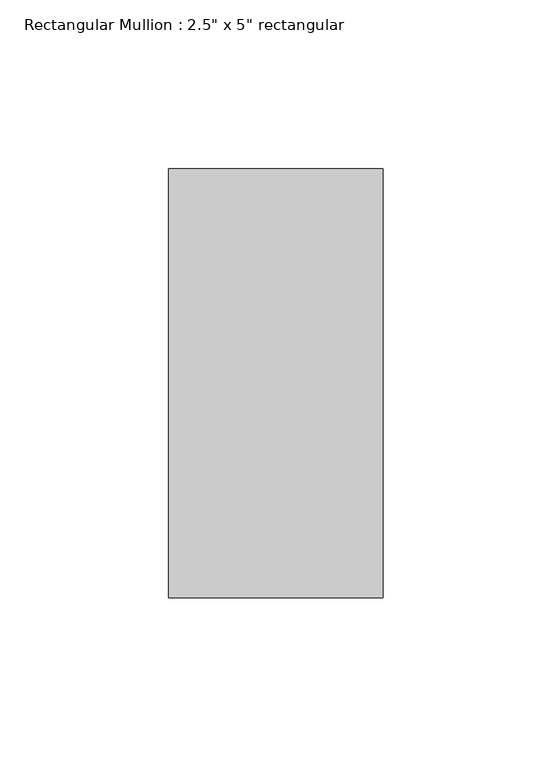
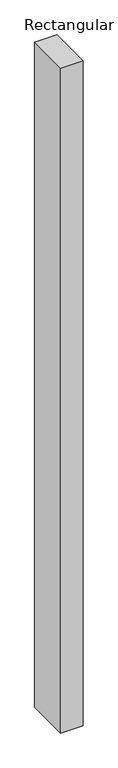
"""IFC4 building model written with IfcOpenShell, lengths in millimetres: member geometry."""

from ifc_helpers import new_model, si_unit, frame, origin, place, context, project, spatial, polyline, outline, extrude, source, transform, mapped, element, save


def member_c6bdffdc(model_context):
    return source(origin(), model_context, "Body", "SweptSolid", [
        extrude(outline(polyline([(31.75, 63.5), (31.75, -63.5), (-31.75, -63.5), (-31.75, 63.5), (31.75, 63.5)])), frame((0.0, 0.0, -1986.7465198), z_axis=(0.0, 0.0, 1.0), x_axis=(1.0, 0.0, 0.0)), (0.0, 0.0, 1.0), 1986.7465198),
    ])


if __name__ == "__main__":
    model = new_model("IFC4")
    model_context = context("Model", 3, world=origin())
    ifc_project = project(units=[si_unit("LENGTHUNIT", "METRE", prefix="MILLI")], contexts=[model_context])
    site = spatial("IfcSite", under=ifc_project)
    building = spatial("IfcBuilding", under=site)
    placement = place(None, origin())
    member_shape = member_c6bdffdc(model_context)
    element("IfcMember", 1, ObjectType="Rectangular Mullion : 2.5\" x 5\" rectangular", at=placement, inside=building, context=model_context, shape_type="MappedRepresentation", body=[
        mapped(member_shape, transform((0.0, 0.0, 0.0), x_axis=(1.0, 0.0, 0.0), y_axis=(0.0, 1.0, 0.0), z_axis=(0.0, 0.0, 1.0))),
    ])
    save(model, "model.ifc")
